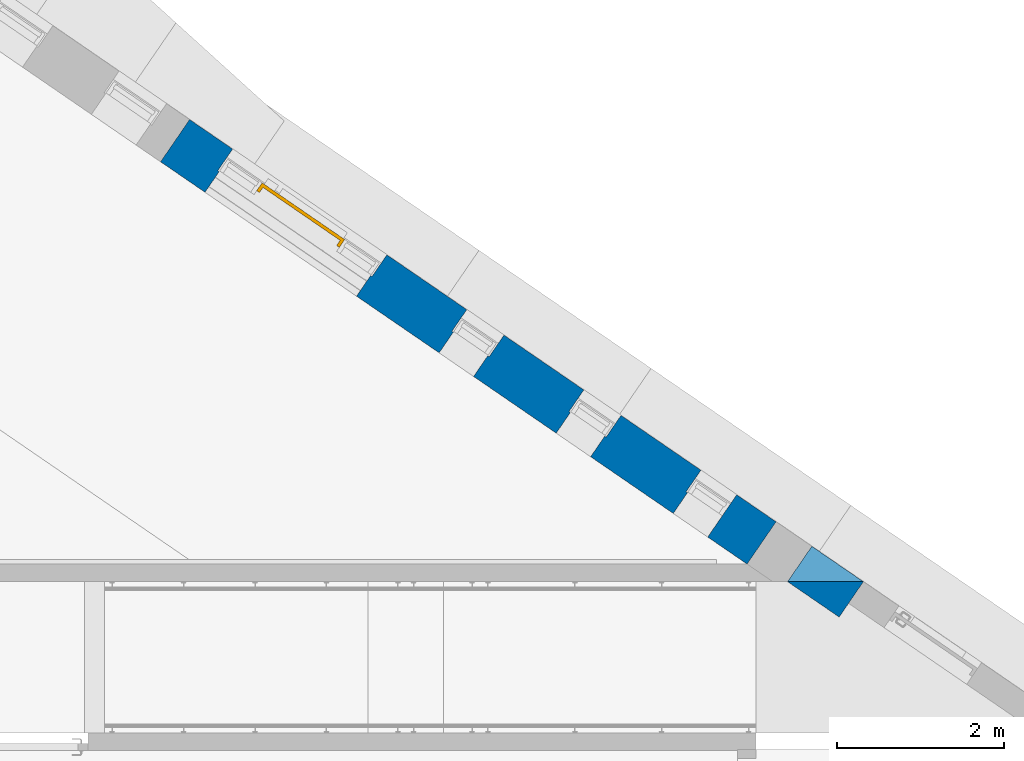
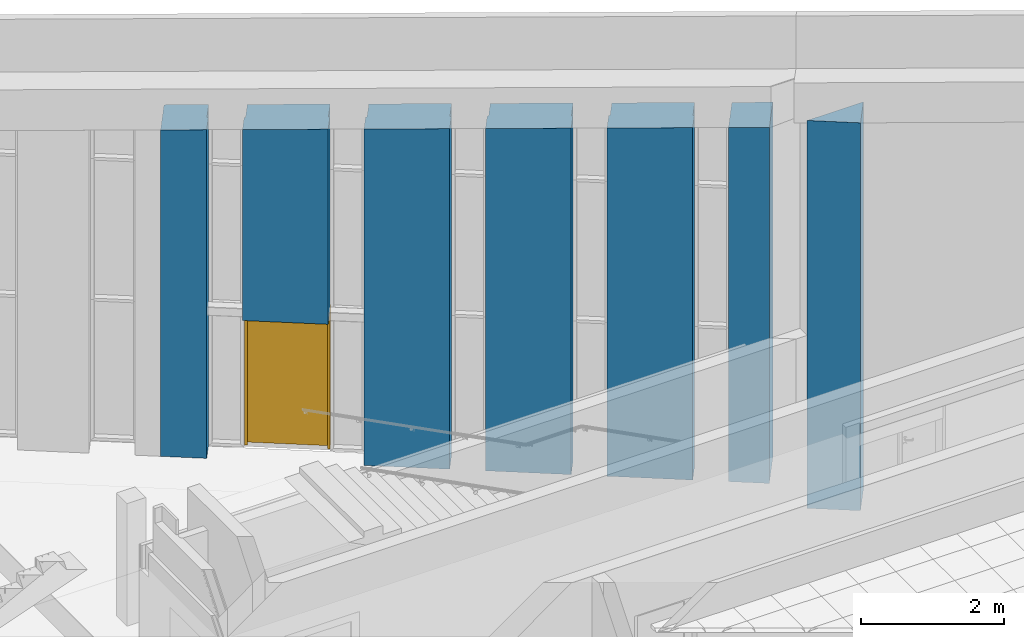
# One storey, part 44 of 79: 3 walls, 1 door, 6 openings.
"""IFC2X3 building model written with IfcOpenShell, lengths in millimetres."""

from ifc_helpers import new_model, entity, si_unit, converted_unit, derived_unit, money_unit, direction, frame, origin_with_axes, place, context, subcontext, project, spatial, faceted_brep, material, material_list, type_object, element, fill, save


model = new_model("IFC2X3")

# Units and contexts
model_context = context("Model", 3, precision=0.01, world=origin_with_axes(), true_north=direction((0.0, 1.0)))
body_context = subcontext(model_context, "Body", "Model", "MODEL_VIEW")
ifc_project = project(units=[si_unit("LENGTHUNIT", "METRE", prefix="MILLI"), si_unit("AREAUNIT", "SQUARE_METRE"), si_unit("VOLUMEUNIT", "CUBIC_METRE"), converted_unit("PLANEANGLEUNIT", "DEGREE", entity("IfcPlaneAngleMeasure", 0.0174532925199), si_unit("PLANEANGLEUNIT", "RADIAN"), dimensions=[0, 0, 0, 0, 0, 0, 0]), si_unit("SOLIDANGLEUNIT", "STERADIAN"), money_unit("EUR"), converted_unit("TIMEUNIT", "Year", entity("IfcTimeMeasure", 31556926.0), si_unit("TIMEUNIT", "SECOND"), dimensions=[0, 0, 1, 0, 0, 0, 0]), si_unit("MASSUNIT", "GRAM", prefix="KILO"), si_unit("THERMODYNAMICTEMPERATUREUNIT", "DEGREE_CELSIUS"), si_unit("LUMINOUSINTENSITYUNIT", "LUMEN"), si_unit("ENERGYUNIT", "JOULE", prefix="MEGA"), derived_unit("THERMALCONDUCTANCEUNIT", [(si_unit("POWERUNIT", "WATT"), 1), (si_unit("LENGTHUNIT", "METRE"), -1), (si_unit("THERMODYNAMICTEMPERATUREUNIT", "KELVIN"), -1)]), derived_unit("SPECIFICHEATCAPACITYUNIT", [(si_unit("ENERGYUNIT", "JOULE"), 1), (si_unit("MASSUNIT", "GRAM", prefix="KILO"), -1), (si_unit("THERMODYNAMICTEMPERATUREUNIT", "KELVIN"), -1)]), derived_unit("MASSDENSITYUNIT", [(si_unit("MASSUNIT", "GRAM", prefix="KILO"), 1), (si_unit("VOLUMEUNIT", "CUBIC_METRE"), -1)])], contexts=[model_context])

# Site, building, storey
site_placement = place(None, origin_with_axes())
site = spatial("IfcSite", under=ifc_project, at=site_placement, Name="L.Koidula tn 11b", CompositionType="ELEMENT")
building_placement = place(site_placement, origin_with_axes())
building = spatial("IfcBuilding", under=site, at=building_placement, Name="Rakvere Riigigümnaasium", CompositionType="ELEMENT")
storey_placement = place(building_placement, frame((0.0, 0.0, 3720.0), z_axis=(0.0, 0.0, 1.0), x_axis=(1.0, 0.0, 0.0)))
storey = spatial("IfcBuildingStorey", under=building, at=storey_placement, Name="2.korrus +3,72", CompositionType="ELEMENT", Elevation=3720.0)

# Wall, openings, door
ifc_material_1 = material(Name="Betoon-element")
ifc_material_2 = material(Name="FF-PIR soojustus")
ifc_material_3 = material(Name="Tuuletõke (RKL Facade)")
ifc_material_4 = material(Name="Salto-roovitus")
ifc_material_5 = material(Name="Puit-fassaad")
ifc_material_list = material_list([ifc_material_1, ifc_material_2, ifc_material_3, ifc_material_4, ifc_material_4, ifc_material_5])
wall_type_1 = type_object("IfcWallType", Name="VS-02 614", PredefinedType="NOTDEFINED")
wall_1_placement = place(storey_placement, frame((85010.8326237, 17645.0693133, 465.0), z_axis=(0.0, 0.0, 1.0), x_axis=(-0.824666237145, 0.565619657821, 0.0)))
wall_1 = element("IfcWall", 1, at=wall_1_placement, inside=storey, type_object=wall_type_1, material=ifc_material_list, Name="Välissein", context=body_context, shape_type="Brep", body=[
    faceted_brep([(7299.99519812, 0.0, 0.0), (7299.99519812, 0.0, 5596.49074025), (7945.36228653, 0.0, 5558.1323778), (7945.36228653, 0.0, 0.0), (7299.99519812, -300.0, 0.0), (7299.99519812, -300.0, 5596.49074037), (7945.36228653, -300.0, 5558.13237792), (7945.36228653, -300.0, 0.0)], [[[0, 1, 2, 3]], [[1, 0, 4, 5]], [[2, 1, 5, 6]], [[7, 3, 2, 6]], [[0, 3, 7, 4]], [[7, 6, 5, 4]]]),
    faceted_brep([(6799.99519812, -85.0000456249, 2380.01371318), (6799.99519812, -81.4645117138, 2381.47817928), (5599.99520748, -81.3990961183, 2381.47817928), (5599.99520536, -84.9346300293, 2380.01371318), (6799.99519812, 0.0, 2375.0), (6799.99519811, 0.0, 5626.20899141), (6799.99519811, -300.0, 5626.20899153), (6799.99519812, -300.0, 2375.0), (6799.99519812, -213.000000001, 2375.0), (6799.99519812, -213.033106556, 2375.01371318), (6799.99519812, -86.9668934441, 2375.01371318), (6799.99519812, -86.9999999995, 2375.0), (6799.99519812, -80.0000456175, 2385.01371318), (6799.99519812, -215.000045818, 2380.01371318), (6799.99519812, -218.535579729, 2381.47817928), (6799.99519812, -220.000045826, 2385.01371318), (6799.99519812, -220.000045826, 2515.01371318), (6799.99519812, -218.535579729, 2518.54924709), (6799.99519812, -215.000045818, 2520.01371318), (6799.99519812, -85.0000456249, 2520.01371318), (6799.99519812, -81.4645117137, 2518.54924709), (6799.99519812, -80.0000456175, 2515.01371318), (5599.99521259, -79.9346300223, 2385.01371318), (5599.99999896, 0.0, 5697.53250886), (5599.99519812, 0.0, 2375.0), (5599.99519812, -86.9999999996, 2375.0), (5599.99519814, -86.9668934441, 2375.01371318), (5599.99519814, -213.033106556, 2375.01371318), (5599.99519812, -213.0, 2375.0), (5599.99519812, -300.0, 2375.0), (5599.99999896, -300.0, 5697.53250898), (5599.99521523, -224.934630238, 2386.84218343), (5599.99539775, -224.934630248, 2513.15781654), (5599.99539752, -225.0, 2513.0), (5599.99521546, -225.0, 2387.0), (5599.99540043, -79.9346300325, 2515.01371318), (5599.99540554, -81.3990961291, 2518.54924709), (5599.99540766, -84.9346300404, 2520.01371318), (5599.99540766, -214.934630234, 2520.01371318), (5599.99540554, -218.470164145, 2518.54924709), (5599.99540043, -219.934630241, 2515.01371318), (5599.99521259, -219.93463023, 2385.01371318), (5599.99520748, -218.470164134, 2381.47817928), (5599.99520536, -214.934630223, 2380.01371318), (6799.15442683, -225.0, 2387.0), (6799.15442684, -225.0, 2513.0)], [[[0, 1, 2, 3]], [[4, 5, 6, 7, 8, 9, 10, 11], [12, 1, 0, 13, 14, 15, 16, 17, 18, 19, 20, 21]], [[1, 12, 22, 2]], [[23, 24, 25, 26, 27, 28, 29, 30], [31, 32, 33, 34], [2, 22, 35, 36, 37, 38, 39, 40, 41, 42, 43, 3]], [[13, 0, 3, 43]], [[5, 4, 24, 23]], [[6, 5, 23, 30]], [[7, 6, 30, 29]], [[8, 7, 29, 28]], [[9, 8, 28, 27]], [[10, 9, 27, 26]], [[11, 10, 26, 25]], [[4, 11, 25, 24]], [[14, 13, 43, 42]], [[15, 14, 42, 41]], [[15, 41, 40, 16]], [[17, 16, 40, 39]], [[18, 17, 39, 38]], [[19, 18, 38, 37]], [[20, 19, 37, 36]], [[21, 20, 36, 35]], [[12, 21, 35, 22]], [[44, 45, 32, 31]], [[33, 32, 45]], [[45, 44, 34, 33]], [[31, 34, 44]]]),
    faceted_brep([(6799.99519812, -82.7573593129, 2382.75735931), (6799.99519812, -87.0, 2381.0), (5599.99520679, -87.0, 2381.0), (5599.99520933, -82.7573593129, 2382.75735931), (6799.99519812, -81.0, 2387.0), (6799.99519812, -81.0, 2513.0), (6799.99519812, -82.7573593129, 2517.24264069), (6799.99519812, -87.0, 2519.0), (6799.99519812, -213.0, 2519.0), (6799.99519812, -217.242640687, 2517.24264069), (6799.99519812, -219.0, 2513.0), (6799.99519812, -219.0, 2387.0), (6799.99519812, -217.242640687, 2382.75735931), (6799.99519812, -213.0, 2381.0), (5599.99520679, -213.0, 2381.0), (5599.99539752, -81.0, 2513.0), (5599.99521546, -81.0, 2387.0), (5599.99520933, -217.242640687, 2382.75735931), (5599.99521546, -219.0, 2387.0), (5599.99539752, -219.0, 2513.0), (5599.99540365, -217.242640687, 2517.24264069), (5599.99540619, -213.0, 2519.0), (5599.99540619, -87.0, 2519.0), (5599.99540365, -82.7573593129, 2517.24264069)], [[[0, 1, 2, 3]], [[4, 5, 6, 7, 8, 9, 10, 11, 12, 13, 1, 0]], [[1, 13, 14, 2]], [[15, 16, 3, 2, 14, 17, 18, 19, 20, 21, 22, 23]], [[4, 0, 3, 16]], [[5, 4, 16, 15]], [[6, 5, 15, 23]], [[7, 6, 23, 22]], [[8, 7, 22, 21]], [[9, 8, 21, 20]], [[10, 9, 20, 19]], [[11, 10, 19, 18]], [[12, 11, 18, 17]], [[13, 12, 17, 14]]]),
    faceted_brep([(5099.99999999, 0.0, 5727.25075996), (5100.0, 0.0, 0.0), (3900.0, 0.0, 0.0), (3900.0, 0.0, 5798.57456275), (5099.99999999, -300.0, 5727.25076008), (5100.0, -300.0, 0.0), (3900.0, -300.0, 0.0), (3900.0, -300.0, 5798.57456287)], [[[0, 1, 2, 3]], [[1, 0, 4, 5]], [[2, 1, 5, 6]], [[6, 7, 3, 2]], [[0, 3, 7, 4]], [[7, 6, 5, 4]]]),
    faceted_brep([(3399.99999999, -300.0, 5828.29281403), (2200.0, -300.0, 5899.61661682), (2200.0, -300.0, 0.0), (3400.0, -300.0, 0.0), (2200.0, 0.0, 5899.6166167), (3399.99999999, 0.0, 5828.29281391), (2200.0, 0.0, 0.0), (3400.0, 0.0, 0.0)], [[[0, 1, 2, 3]], [[4, 1, 0, 5]], [[1, 4, 6, 2]], [[2, 6, 7, 3]], [[5, 0, 3, 7]], [[4, 5, 7, 6]]]),
    faceted_brep([(1699.99999999, -300.0, 5929.33486799), (500.0, -300.0, 6000.65867078), (500.0, -300.0, 0.0), (1700.0, -300.0, 0.0), (500.0, 0.0, 6000.65867066), (1699.99999999, 0.0, 5929.33486787), (500.0, 0.0, 0.0), (1700.0, 0.0, 0.0)], [[[0, 1, 2, 3]], [[4, 1, 0, 5]], [[1, 4, 6, 2]], [[3, 2, 6, 7]], [[5, 0, 3, 7]], [[4, 5, 7, 6]]]),
    faceted_brep([(6779.99519812, -480.0, 2375.0), (6779.99519812, -480.0, 5627.39772165), (5620.0, -480.0, 5696.34377894), (5620.0, -480.0, 2375.0), (6779.99519812, -300.0, 2375.0), (6779.99519812, -300.0, 5627.39772158), (5620.0, -300.0, 5696.34377887), (5620.0, -300.0, 2375.0)], [[[0, 1, 2, 3]], [[4, 5, 1, 0]], [[5, 6, 2, 1]], [[3, 2, 6, 7]], [[3, 7, 4, 0]], [[7, 6, 5, 4]]]),
    faceted_brep([(7945.36228653, -480.0, 5558.13237799), (7319.99519812, -480.0, 5595.30201039), (7319.99519812, -480.0, 0.0), (7945.36228653, -480.0, 0.0), (7319.99519812, -300.0, 5595.30201032), (7945.36228653, -300.0, 5558.13237792), (7319.99519812, -300.0, 0.0), (7945.36228653, -300.0, 0.0)], [[[0, 1, 2, 3]], [[4, 1, 0, 5]], [[1, 4, 6, 2]], [[3, 2, 6, 7]], [[5, 0, 3, 7]], [[4, 5, 7, 6]]]),
    faceted_brep([(5080.0, -480.0, 5728.4394902), (3920.0, -480.0, 5797.38583289), (3920.0, -480.0, 0.0), (5080.0, -480.0, 0.0), (3920.0, -300.0, 5797.38583282), (5080.0, -300.0, 5728.43949012), (3920.0, -300.0, 0.0), (5080.0, -300.0, 0.0)], [[[0, 1, 2, 3]], [[4, 1, 0, 5]], [[1, 4, 6, 2]], [[6, 7, 3, 2]], [[5, 0, 3, 7]], [[4, 5, 7, 6]]]),
    faceted_brep([(3380.0, -480.0, 5829.48154415), (2220.0, -480.0, 5898.42788685), (2220.0, -480.0, 0.0), (3380.0, -480.0, 0.0), (2220.0, -300.0, 5898.42788678), (3380.0, -300.0, 5829.48154408), (2220.0, -300.0, 0.0), (3380.0, -300.0, 0.0)], [[[0, 1, 2, 3]], [[4, 1, 0, 5]], [[1, 4, 6, 2]], [[2, 6, 7, 3]], [[5, 0, 3, 7]], [[4, 5, 7, 6]]]),
    faceted_brep([(1680.0, -480.0, 5930.52359811), (520.0, -480.0, 5999.4699408), (520.0, -480.0, 0.0), (1680.0, -480.0, 0.0), (520.0, -300.0, 5999.46994073), (1680.0, -300.0, 5930.52359803), (520.0, -300.0, 0.0), (1680.0, -300.0, 0.0)], [[[0, 1, 2, 3]], [[4, 1, 0, 5]], [[1, 4, 6, 2]], [[3, 2, 6, 7]], [[5, 0, 3, 7]], [[4, 5, 7, 6]]]),
    faceted_brep([(6779.99519812, -530.0, 2375.0), (6779.99519812, -530.0, 5627.39772167), (5620.0, -530.0, 5696.34377896), (5620.0, -530.0, 2375.0), (6779.99519812, -480.0, 2375.0), (6779.99519812, -480.0, 5627.39772165), (5620.0, -480.0, 5696.34377894), (5620.0, -480.0, 2375.0)], [[[0, 1, 2, 3]], [[4, 5, 1, 0]], [[5, 6, 2, 1]], [[3, 2, 6, 7]], [[3, 7, 4, 0]], [[7, 6, 5, 4]]]),
    faceted_brep([(7945.36228653, -530.0, 5558.13237801), (7319.99519812, -530.0, 5595.30201041), (7319.99519812, -530.0, 0.0), (7945.36228653, -530.0, 0.0), (7319.99519812, -480.0, 5595.30201039), (7945.36228653, -480.0, 5558.13237799), (7319.99519812, -480.0, 0.0), (7945.36228653, -480.0, 0.0)], [[[0, 1, 2, 3]], [[4, 1, 0, 5]], [[1, 4, 6, 2]], [[3, 2, 6, 7]], [[5, 0, 3, 7]], [[4, 5, 7, 6]]]),
    faceted_brep([(5080.0, -530.0, 5728.43949022), (3920.0, -530.0, 5797.38583291), (3920.0, -530.0, 0.0), (5080.0, -530.0, 0.0), (3920.0, -480.0, 5797.38583289), (5080.0, -480.0, 5728.4394902), (3920.0, -480.0, 0.0), (5080.0, -480.0, 0.0)], [[[0, 1, 2, 3]], [[4, 1, 0, 5]], [[1, 4, 6, 2]], [[6, 7, 3, 2]], [[5, 0, 3, 7]], [[4, 5, 7, 6]]]),
    faceted_brep([(3380.0, -530.0, 5829.48154417), (2220.0, -530.0, 5898.42788687), (2220.0, -530.0, 0.0), (3380.0, -530.0, 0.0), (2220.0, -480.0, 5898.42788685), (3380.0, -480.0, 5829.48154415), (2220.0, -480.0, 0.0), (3380.0, -480.0, 0.0)], [[[0, 1, 2, 3]], [[4, 1, 0, 5]], [[1, 4, 6, 2]], [[2, 6, 7, 3]], [[5, 0, 3, 7]], [[4, 5, 7, 6]]]),
    faceted_brep([(1680.0, -530.0, 5930.52359813), (520.0, -530.0, 5999.46994082), (520.0, -530.0, 0.0), (1680.0, -530.0, 0.0), (520.0, -480.0, 5999.4699408), (1680.0, -480.0, 5930.52359811), (520.0, -480.0, 0.0), (1680.0, -480.0, 0.0)], [[[0, 1, 2, 3]], [[4, 1, 0, 5]], [[1, 4, 6, 2]], [[3, 2, 6, 7]], [[5, 0, 3, 7]], [[4, 5, 7, 6]]]),
    faceted_brep([(6779.99519812, -562.0, 2375.0), (6779.99519812, -562.0, 5627.39772168), (5620.0, -562.0, 5696.34377897), (5620.0, -562.0, 2375.0), (6779.99519812, -530.0, 2375.0), (6779.99519812, -530.0, 5627.39772167), (5620.0, -530.0, 5696.34377896), (5620.0, -530.0, 2375.0)], [[[0, 1, 2, 3]], [[4, 5, 1, 0]], [[5, 6, 2, 1]], [[3, 2, 6, 7]], [[3, 7, 4, 0]], [[7, 6, 5, 4]]]),
    faceted_brep([(7945.36228653, -562.0, 5558.13237802), (7319.99519812, -562.0, 5595.30201043), (7319.99519812, -562.0, 0.0), (7945.36228653, -562.0, 0.0), (7319.99519812, -530.0, 5595.30201041), (7945.36228653, -530.0, 5558.13237801), (7319.99519812, -530.0, 0.0), (7945.36228653, -530.0, 0.0)], [[[0, 1, 2, 3]], [[4, 1, 0, 5]], [[1, 4, 6, 2]], [[3, 2, 6, 7]], [[5, 0, 3, 7]], [[4, 5, 7, 6]]]),
    faceted_brep([(5080.0, -562.0, 5728.43949023), (3920.0, -562.0, 5797.38583293), (3920.0, -562.0, 0.0), (5080.0, -562.0, 0.0), (3920.0, -530.0, 5797.38583291), (5080.0, -530.0, 5728.43949022), (3920.0, -530.0, 0.0), (5080.0, -530.0, 0.0)], [[[0, 1, 2, 3]], [[4, 1, 0, 5]], [[1, 4, 6, 2]], [[6, 7, 3, 2]], [[5, 0, 3, 7]], [[4, 5, 7, 6]]]),
    faceted_brep([(3380.0, -562.0, 5829.48154418), (2220.0, -562.0, 5898.42788688), (2220.0, -562.0, 0.0), (3380.0, -562.0, 0.0), (2220.0, -530.0, 5898.42788687), (3380.0, -530.0, 5829.48154417), (2220.0, -530.0, 0.0), (3380.0, -530.0, 0.0)], [[[0, 1, 2, 3]], [[4, 1, 0, 5]], [[1, 4, 6, 2]], [[2, 6, 7, 3]], [[5, 0, 3, 7]], [[4, 5, 7, 6]]]),
    faceted_brep([(1680.0, -562.0, 5930.52359814), (520.0, -562.0, 5999.46994084), (520.0, -562.0, 0.0), (1680.0, -562.0, 0.0), (520.0, -530.0, 5999.46994082), (1680.0, -530.0, 5930.52359813), (520.0, -530.0, 0.0), (1680.0, -530.0, 0.0)], [[[0, 1, 2, 3]], [[4, 1, 0, 5]], [[1, 4, 6, 2]], [[3, 2, 6, 7]], [[5, 0, 3, 7]], [[4, 5, 7, 6]]]),
    faceted_brep([(6779.99519812, -594.0, 2375.0), (6779.99519812, -594.0, 5627.39772169), (5620.0, -594.0, 5696.34377899), (5620.0, -594.0, 2375.0), (6779.99519812, -562.0, 2375.0), (6779.99519812, -562.0, 5627.39772168), (5620.0, -562.0, 5696.34377897), (5620.0, -562.0, 2375.0)], [[[0, 1, 2, 3]], [[4, 5, 1, 0]], [[5, 6, 2, 1]], [[3, 2, 6, 7]], [[3, 7, 4, 0]], [[7, 6, 5, 4]]]),
    faceted_brep([(7945.36228653, -594.0, 5558.13237803), (7319.99519812, -594.0, 5595.30201044), (7319.99519812, -594.0, 0.0), (7945.36228653, -594.0, 0.0), (7319.99519812, -562.0, 5595.30201043), (7945.36228653, -562.0, 5558.13237802), (7319.99519812, -562.0, 0.0), (7945.36228653, -562.0, 0.0)], [[[0, 1, 2, 3]], [[4, 1, 0, 5]], [[1, 4, 6, 2]], [[3, 2, 6, 7]], [[5, 0, 3, 7]], [[4, 5, 7, 6]]]),
    faceted_brep([(5080.0, -594.0, 5728.43949024), (3920.0, -594.0, 5797.38583294), (3920.0, -594.0, 0.0), (5080.0, -594.0, 0.0), (3920.0, -562.0, 5797.38583293), (5080.0, -562.0, 5728.43949023), (3920.0, -562.0, 0.0), (5080.0, -562.0, 0.0)], [[[0, 1, 2, 3]], [[4, 1, 0, 5]], [[1, 4, 6, 2]], [[6, 7, 3, 2]], [[5, 0, 3, 7]], [[4, 5, 7, 6]]]),
    faceted_brep([(3380.0, -594.0, 5829.4815442), (2220.0, -594.0, 5898.42788689), (2220.0, -594.0, 0.0), (3380.0, -594.0, 0.0), (2220.0, -562.0, 5898.42788688), (3380.0, -562.0, 5829.48154418), (2220.0, -562.0, 0.0), (3380.0, -562.0, 0.0)], [[[0, 1, 2, 3]], [[4, 1, 0, 5]], [[1, 4, 6, 2]], [[2, 6, 7, 3]], [[5, 0, 3, 7]], [[4, 5, 7, 6]]]),
    faceted_brep([(1680.0, -594.0, 5930.52359815), (520.0, -594.0, 5999.46994085), (520.0, -594.0, 0.0), (1680.0, -594.0, 0.0), (520.0, -562.0, 5999.46994084), (1680.0, -562.0, 5930.52359814), (520.0, -562.0, 0.0), (1680.0, -562.0, 0.0)], [[[0, 1, 2, 3]], [[4, 1, 0, 5]], [[1, 4, 6, 2]], [[3, 2, 6, 7]], [[5, 0, 3, 7]], [[4, 5, 7, 6]]]),
    faceted_brep([(6779.99519812, -614.0, 2375.0), (6779.99519812, -614.0, 5627.3977217), (5620.0, -614.0, 5696.34377899), (5620.0, -614.0, 2375.0), (6779.99519812, -594.0, 2375.0), (6779.99519812, -594.0, 5627.39772169), (5620.0, -594.0, 5696.34377899), (5620.0, -594.0, 2375.0)], [[[0, 1, 2, 3]], [[4, 5, 1, 0]], [[5, 6, 2, 1]], [[3, 2, 6, 7]], [[3, 7, 4, 0]], [[7, 6, 5, 4]]]),
    faceted_brep([(7945.36228653, -614.0, 5558.13237804), (7319.99519812, -614.0, 5595.30201045), (7319.99519812, -614.0, 0.0), (7945.36228653, -614.0, 0.0), (7319.99519812, -594.0, 5595.30201044), (7945.36228653, -594.0, 5558.13237803), (7319.99519812, -594.0, 0.0), (7945.36228653, -594.0, 0.0)], [[[0, 1, 2, 3]], [[4, 1, 0, 5]], [[1, 4, 6, 2]], [[3, 2, 6, 7]], [[5, 0, 3, 7]], [[4, 5, 7, 6]]]),
    faceted_brep([(5080.0, -614.0, 5728.43949025), (3920.0, -614.0, 5797.38583295), (3920.0, -614.0, 0.0), (5080.0, -614.0, 0.0), (3920.0, -594.0, 5797.38583294), (5080.0, -594.0, 5728.43949024), (3920.0, -594.0, 0.0), (5080.0, -594.0, 0.0)], [[[0, 1, 2, 3]], [[4, 1, 0, 5]], [[1, 4, 6, 2]], [[6, 7, 3, 2]], [[5, 0, 3, 7]], [[4, 5, 7, 6]]]),
    faceted_brep([(3380.0, -614.0, 5829.4815442), (2220.0, -614.0, 5898.4278869), (2220.0, -614.0, 0.0), (3380.0, -614.0, 0.0), (2220.0, -594.0, 5898.42788689), (3380.0, -594.0, 5829.4815442), (2220.0, -594.0, 0.0), (3380.0, -594.0, 0.0)], [[[0, 1, 2, 3]], [[4, 1, 0, 5]], [[1, 4, 6, 2]], [[2, 6, 7, 3]], [[5, 0, 3, 7]], [[4, 5, 7, 6]]]),
    faceted_brep([(1680.0, -614.0, 5930.52359816), (520.0, -614.0, 5999.46994086), (520.0, -614.0, 0.0), (1680.0, -614.0, 0.0), (520.0, -594.0, 5999.46994085), (1680.0, -594.0, 5930.52359815), (520.0, -594.0, 0.0), (1680.0, -594.0, 0.0)], [[[0, 1, 2, 3]], [[4, 1, 0, 5]], [[1, 4, 6, 2]], [[3, 2, 6, 7]], [[5, 0, 3, 7]], [[4, 5, 7, 6]]]),
])
opening_1_placement = place(wall_1_placement, frame((6199.99519812, 0.0, 0.0), z_axis=(0.0, 0.0, 1.0), x_axis=(1.0, 0.0, 0.0)))
opening_1 = element("IfcOpeningElement", 2, at=opening_1_placement, cuts=wall_1, Name="VU-03", context=body_context, shape_type="Brep", body=[
    faceted_brep([(-600.0, 614.0, 2375.0), (-600.0, 614.0, 0.0), (-600.0, -480.0, 0.0), (-600.0, -480.0, 2375.0), (600.0, 614.0, 2375.0), (600.0, 614.0, 0.0), (600.0, -480.0, 0.0), (600.0, -480.0, 2375.0)], [[[0, 1, 2, 3]], [[0, 4, 5, 1]], [[1, 5, 6, 2]], [[3, 2, 6, 7]], [[4, 0, 3, 7]], [[5, 4, 7, 6]]]),
    faceted_brep([(-600.0, -1228.0, 0.0), (-600.0, -1228.0, 2375.0), (-600.0, -480.0, 2375.0), (-600.0, -480.0, 0.0), (600.0, -1228.0, 0.0), (600.0, -1228.0, 2375.0), (600.0, -480.0, 2375.0), (600.0, -480.0, 0.0)], [[[0, 1, 2, 3]], [[0, 4, 5, 1]], [[1, 5, 6, 2]], [[3, 2, 6, 7]], [[4, 0, 3, 7]], [[5, 4, 7, 6]]]),
])
opening_2_placement = place(wall_1_placement, frame((7049.99519812, 0.0, 0.0), z_axis=(0.0, 0.0, 1.0), x_axis=(1.0, 0.0, 0.0)))
element("IfcOpeningElement", 3, at=opening_2_placement, cuts=wall_1, Name="Ava", context=body_context, shape_type="Brep", body=[
    faceted_brep([(270.0, -300.0, 0.0), (270.0, -300.0, 5616.08260341), (270.0, -1228.0, 5616.08260341), (270.0, -1228.0, 0.0), (-270.0, -300.0, 0.0), (-270.0, -300.0, 5647.40260341), (-270.0, -1228.0, 5647.40260341), (-270.0, -1228.0, 0.0)], [[[0, 1, 2, 3]], [[0, 4, 5, 1]], [[1, 5, 6, 2]], [[3, 2, 6, 7]], [[4, 0, 3, 7]], [[5, 4, 7, 6]]]),
    faceted_brep([(-250.0, -300.0, 0.0), (-250.0, -300.0, 5626.20899166), (-250.0, 614.0, 5626.20899166), (-250.0, 614.0, 0.0), (250.0, -300.0, 0.0), (250.0, -300.0, 5597.20899166), (250.0, 614.0, 5597.20899166), (250.0, 614.0, 0.0)], [[[0, 1, 2, 3]], [[0, 4, 5, 1]], [[1, 5, 6, 2]], [[3, 2, 6, 7]], [[4, 0, 3, 7]], [[5, 4, 7, 6]]]),
])
opening_3_placement = place(wall_1_placement, frame((5350.0, 0.0, 0.0), z_axis=(0.0, 0.0, 1.0), x_axis=(1.0, 0.0, 0.0)))
element("IfcOpeningElement", 4, at=opening_3_placement, cuts=wall_1, Name="Ava", context=body_context, shape_type="Brep", body=[
    faceted_brep([(270.0, -300.0, 0.0), (270.0, -300.0, 5717.12437196), (270.0, -1228.0, 5717.12437196), (270.0, -1228.0, 0.0), (-270.0, -300.0, 0.0), (-270.0, -300.0, 5748.44437196), (-270.0, -1228.0, 5748.44437196), (-270.0, -1228.0, 0.0)], [[[0, 1, 2, 3]], [[0, 4, 5, 1]], [[1, 5, 6, 2]], [[3, 2, 6, 7]], [[4, 0, 3, 7]], [[5, 4, 7, 6]]]),
    faceted_brep([(-250.0, -300.0, 0.0), (-250.0, -300.0, 5727.2507602), (-250.0, 614.0, 5727.2507602), (-250.0, 614.0, 0.0), (250.0, -300.0, 0.0), (250.0, -300.0, 5698.2507602), (250.0, 614.0, 5698.2507602), (250.0, 614.0, 0.0)], [[[0, 1, 2, 3]], [[0, 4, 5, 1]], [[1, 5, 6, 2]], [[3, 2, 6, 7]], [[4, 0, 3, 7]], [[5, 4, 7, 6]]]),
])
opening_4_placement = place(wall_1_placement, frame((3650.0, 0.0, 0.0), z_axis=(0.0, 0.0, 1.0), x_axis=(1.0, 0.0, 0.0)))
element("IfcOpeningElement", 5, at=opening_4_placement, cuts=wall_1, Name="Ava", context=body_context, shape_type="Brep", body=[
    faceted_brep([(270.0, -300.0, 0.0), (270.0, -300.0, 5818.16642591), (270.0, -1228.0, 5818.16642591), (270.0, -1228.0, 0.0), (-270.0, -300.0, 0.0), (-270.0, -300.0, 5849.48642591), (-270.0, -1228.0, 5849.48642591), (-270.0, -1228.0, 0.0)], [[[0, 1, 2, 3]], [[0, 4, 5, 1]], [[1, 5, 6, 2]], [[3, 2, 6, 7]], [[4, 0, 3, 7]], [[5, 4, 7, 6]]]),
    faceted_brep([(-250.0, -300.0, 0.0), (-250.0, -300.0, 5828.29281416), (-250.0, 614.0, 5828.29281416), (-250.0, 614.0, 0.0), (250.0, -300.0, 0.0), (250.0, -300.0, 5799.29281416), (250.0, 614.0, 5799.29281416), (250.0, 614.0, 0.0)], [[[0, 1, 2, 3]], [[0, 4, 5, 1]], [[1, 5, 6, 2]], [[3, 2, 6, 7]], [[4, 0, 3, 7]], [[5, 4, 7, 6]]]),
])
opening_5_placement = place(wall_1_placement, frame((1950.0, 0.0, 0.0), z_axis=(0.0, 0.0, 1.0), x_axis=(1.0, 0.0, 0.0)))
element("IfcOpeningElement", 6, at=opening_5_placement, cuts=wall_1, Name="Ava", context=body_context, shape_type="Brep", body=[
    faceted_brep([(270.0, -300.0, 0.0), (270.0, -300.0, 5919.20847987), (270.0, -1228.0, 5919.20847987), (270.0, -1228.0, 0.0), (-270.0, -300.0, 0.0), (-270.0, -300.0, 5950.52847987), (-270.0, -1228.0, 5950.52847987), (-270.0, -1228.0, 0.0)], [[[0, 1, 2, 3]], [[0, 4, 5, 1]], [[1, 5, 6, 2]], [[3, 2, 6, 7]], [[4, 0, 3, 7]], [[5, 4, 7, 6]]]),
    faceted_brep([(-250.0, -300.0, 0.0), (-250.0, -300.0, 5929.33486811), (-250.0, 614.0, 5929.33486811), (-250.0, 614.0, 0.0), (250.0, -300.0, 0.0), (250.0, -300.0, 5900.33486811), (250.0, 614.0, 5900.33486811), (250.0, 614.0, 0.0)], [[[0, 1, 2, 3]], [[0, 4, 5, 1]], [[1, 5, 6, 2]], [[3, 2, 6, 7]], [[4, 0, 3, 7]], [[5, 4, 7, 6]]]),
])
opening_6_placement = place(wall_1_placement, frame((250.0, 0.0, 0.0), z_axis=(0.0, 0.0, 1.0), x_axis=(1.0, 0.0, 0.0)))
element("IfcOpeningElement", 7, at=opening_6_placement, cuts=wall_1, Name="Ava", context=body_context, shape_type="Brep", body=[
    faceted_brep([(270.0, -300.0, 0.0), (270.0, -300.0, 6020.25053382), (270.0, -1228.0, 6020.25053382), (270.0, -1228.0, 0.0), (-270.0, -300.0, 0.0), (-270.0, -300.0, 6051.57053382), (-270.0, -1228.0, 6051.57053382), (-270.0, -1228.0, 0.0)], [[[0, 1, 2, 3]], [[0, 4, 5, 1]], [[1, 5, 6, 2]], [[3, 2, 6, 7]], [[4, 0, 3, 7]], [[5, 4, 7, 6]]]),
    faceted_brep([(-250.0, -300.0, 0.0), (-250.0, -300.0, 6030.37692207), (-250.0, 614.0, 6030.37692207), (-250.0, 614.0, 0.0), (250.0, -300.0, 0.0), (250.0, -300.0, 6001.37692207), (250.0, 614.0, 6001.37692207), (250.0, 614.0, 0.0)], [[[0, 1, 2, 3]], [[0, 4, 5, 1]], [[1, 5, 6, 2]], [[3, 2, 6, 7]], [[4, 0, 3, 7]], [[5, 4, 7, 6]]]),
])
door_style = type_object("IfcDoorStyle", Name="Door 23", ConstructionType="NOTDEFINED", OperationType="SINGLE_SWING_RIGHT", ParameterTakesPrecedence=False, Sizeable=False)
door_placement = place(opening_1_placement, frame((600.0, 0.0, 0.0), z_axis=(0.0, 0.0, 1.0), x_axis=(-1.0, 0.0, 0.0)))
door = element("IfcDoor", 8, at=door_placement, inside=storey, type_object=door_style, Name="VU-03", ObjectType="DOOR", OverallHeight=2375.0, OverallWidth=1200.0, context=body_context, shape_type="Brep", body=[
    faceted_brep([(1172.0, 480.0, 2347.0), (28.0, 480.0, 2347.0), (28.0, 480.0, 2335.0), (0.0, 480.0, 2335.0), (0.0, 480.0, 2375.0), (1200.0, 480.0, 2375.0), (1200.0, 480.0, 2335.0), (1172.0, 480.0, 2335.0), (28.0, 440.0, 2347.0), (1172.0, 440.0, 2347.0), (28.0, 440.0, 2335.0), (40.0, 440.0, 2335.0), (40.0, 365.0, 2335.0), (0.0, 365.0, 2335.0), (0.0, 365.0, 2375.0), (1200.0, 365.0, 2375.0), (1200.0, 365.0, 2335.0), (1160.0, 440.0, 2335.0), (1172.0, 440.0, 2335.0), (1160.0, 365.0, 2335.0)], [[[0, 1, 2, 3, 4, 5, 6, 7]], [[8, 1, 0, 9]], [[10, 2, 1, 8]], [[2, 10, 11, 12, 13, 3]], [[4, 3, 13, 14]], [[5, 4, 14, 15]], [[6, 5, 15, 16]], [[17, 18, 7, 6, 16, 19]], [[9, 0, 7, 18]], [[9, 18, 17, 11, 10, 8]], [[12, 11, 17, 19]], [[12, 19, 16, 15, 14, 13]]]),
    faceted_brep([(40.0, 440.0, 0.0), (40.0, 440.0, 2335.0), (40.0, 365.0, 2335.0), (40.0, 365.0, 0.0), (28.0, 440.0, 2335.0), (28.0, 440.0, 0.0), (28.0, 480.0, 2335.0), (0.0, 480.0, 2335.0), (0.0, 365.0, 2335.0), (0.0, 365.0, 0.0), (0.0, 480.0, 0.0), (28.0, 480.0, 0.0)], [[[0, 1, 2, 3]], [[4, 1, 0, 5]], [[4, 6, 7, 8, 2, 1]], [[3, 2, 8, 9]], [[5, 0, 3, 9, 10, 11]], [[6, 4, 5, 11]], [[6, 11, 10, 7]], [[10, 9, 8, 7]]]),
    faceted_brep([(1172.0, 440.0, 2335.0), (1160.0, 440.0, 2335.0), (1160.0, 365.0, 2335.0), (1200.0, 365.0, 2335.0), (1200.0, 480.0, 2335.0), (1172.0, 480.0, 2335.0), (1172.0, 440.0, 0.0), (1160.0, 440.0, 0.0), (1160.0, 365.0, 0.0), (1200.0, 365.0, 0.0), (1200.0, 480.0, 0.0), (1172.0, 480.0, 0.0)], [[[0, 1, 2, 3, 4, 5]], [[1, 0, 6, 7]], [[1, 7, 8, 2]], [[3, 2, 8, 9]], [[4, 3, 9, 10]], [[11, 5, 4, 10]], [[0, 5, 11, 6]], [[6, 11, 10, 9, 8, 7]]]),
    faceted_brep([(1172.0, 480.0, 0.0), (1172.0, 440.0, 0.0), (28.0, 440.0, 0.0), (28.0, 480.0, 0.0), (1172.0, 480.0, 2347.0), (1172.0, 440.0, 2347.0), (28.0, 440.0, 2347.0), (28.0, 480.0, 2347.0)], [[[0, 1, 2, 3]], [[4, 5, 1, 0]], [[1, 5, 6, 2]], [[3, 2, 6, 7]], [[0, 3, 7, 4]], [[7, 6, 5, 4]]]),
])
fill(opening_1, door)

# Walls
wall_2_placement = place(storey_placement, frame((85482.564107, 17321.5195083, 465.0), z_axis=(0.0, 0.0, 1.0), x_axis=(-0.824666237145, 0.565619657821, 0.0)))
element("IfcWall", 9, at=wall_2_placement, inside=storey, type_object=wall_type_1, material=ifc_material_list, Name="Välissein", context=body_context, shape_type="Brep", body=[
    faceted_brep([(572.027157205, -300.0, 6030.37692194), (0.0, -300.0, 6064.3762154), (0.0, -300.0, 0.0), (572.027157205, -300.0, 0.0), (0.0, 0.0, 6064.37621528), (572.027157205, 0.0, 6030.37692182), (0.0, 0.0, 0.0), (572.027157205, 0.0, 0.0)], [[[0, 1, 2, 3]], [[4, 1, 0, 5]], [[1, 4, 6, 2]], [[2, 6, 7, 3]], [[5, 0, 3, 7]], [[4, 5, 7, 6]]]),
    faceted_brep([(572.027157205, -480.0, 6030.37692201), (0.0, -480.0, 6064.37621547), (0.0, -480.0, 0.0), (572.027157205, -480.0, 0.0), (0.0, -300.0, 6064.3762154), (572.027157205, -300.0, 6030.37692194), (0.0, -300.0, 0.0), (572.027157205, -300.0, 0.0)], [[[0, 1, 2, 3]], [[4, 1, 0, 5]], [[1, 4, 6, 2]], [[2, 6, 7, 3]], [[5, 0, 3, 7]], [[4, 5, 7, 6]]]),
    faceted_brep([(572.027157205, -530.0, 6030.37692203), (0.0, -530.0, 6064.37621549), (0.0, -530.0, 0.0), (572.027157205, -530.0, 0.0), (0.0, -480.0, 6064.37621547), (572.027157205, -480.0, 6030.37692201), (0.0, -480.0, 0.0), (572.027157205, -480.0, 0.0)], [[[0, 1, 2, 3]], [[4, 1, 0, 5]], [[1, 4, 6, 2]], [[2, 6, 7, 3]], [[5, 0, 3, 7]], [[4, 5, 7, 6]]]),
    faceted_brep([(572.027157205, -562.0, 6030.37692205), (0.0, -562.0, 6064.37621551), (0.0, -562.0, 0.0), (572.027157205, -562.0, 0.0), (0.0, -530.0, 6064.37621549), (572.027157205, -530.0, 6030.37692203), (0.0, -530.0, 0.0), (572.027157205, -530.0, 0.0)], [[[0, 1, 2, 3]], [[4, 1, 0, 5]], [[1, 4, 6, 2]], [[2, 6, 7, 3]], [[5, 0, 3, 7]], [[4, 5, 7, 6]]]),
    faceted_brep([(572.027157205, -594.0, 6030.37692206), (0.0, -594.0, 6064.37621552), (0.0, -594.0, 0.0), (572.027157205, -594.0, 0.0), (0.0, -562.0, 6064.37621551), (572.027157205, -562.0, 6030.37692205), (0.0, -562.0, 0.0), (572.027157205, -562.0, 0.0)], [[[0, 1, 2, 3]], [[4, 1, 0, 5]], [[1, 4, 6, 2]], [[2, 6, 7, 3]], [[5, 0, 3, 7]], [[4, 5, 7, 6]]]),
    faceted_brep([(572.027157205, -614.0, 6030.37692207), (0.0, -614.0, 6064.37621553), (0.0, -614.0, 0.0), (572.027157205, -614.0, 0.0), (0.0, -594.0, 6064.37621552), (572.027157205, -594.0, 6030.37692206), (0.0, -594.0, 0.0), (572.027157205, -594.0, 0.0)], [[[0, 1, 2, 3]], [[4, 1, 0, 5]], [[1, 4, 6, 2]], [[2, 6, 7, 3]], [[5, 0, 3, 7]], [[4, 5, 7, 6]]]),
])
wall_type_2 = type_object("IfcWallType", Name="VS-01 514", PredefinedType="NOTDEFINED")
wall_3_placement = place(storey_placement, frame((86585.1026228, 16686.581962, 0.0), z_axis=(0.0, 0.0, 1.0), x_axis=(-0.824666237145, 0.565619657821, 0.0)))
element("IfcWall", 10, at=wall_3_placement, inside=storey, type_object=wall_type_2, material=ifc_material_list, Name="Välissein", context=body_context, shape_type="Brep", body=[
    faceted_brep([(749.396831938, -199.994099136, 465.0), (457.807989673, -199.994099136, 465.0), (457.807989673, -199.994099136, 6604.76304739), (0.0, -200.0, 6604.76304739), (0.0, -200.0, 0.0), (749.396831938, -200.0, 0.0), (749.396831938, 0.0, 465.0), (749.396831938, 0.0, 6604.76304739), (0.0, 0.0, 6604.76304739), (0.0, 0.0, 0.0), (749.396831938, 0.0, 0.0)], [[[0, 1, 2, 3, 4, 5]], [[1, 0, 6]], [[7, 2, 1, 6]], [[2, 7, 8, 3]], [[9, 4, 3, 8]], [[10, 5, 4, 9]], [[6, 0, 5, 10]], [[7, 6, 10, 9, 8]]]),
    faceted_brep([(749.396831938, -379.994099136, 465.0), (195.37028859, -379.994099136, 465.0), (195.37028859, -379.994099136, 6604.76304739), (0.0, -380.0, 6604.76304739), (0.0, -380.0, 0.0), (749.396831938, -380.0, 0.0), (749.396831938, -199.994099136, 465.0), (457.807989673, -199.994099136, 465.0), (457.807989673, -199.994099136, 6604.76304739), (0.0, -200.0, 6604.76304739), (0.0, -200.0, 0.0), (749.396831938, -200.0, 0.0)], [[[0, 1, 2, 3, 4, 5]], [[1, 0, 6, 7]], [[8, 2, 1, 7]], [[2, 8, 9, 3]], [[4, 3, 9, 10]], [[5, 4, 10, 11]], [[6, 0, 5, 11]], [[7, 6, 11, 10, 9, 8]]]),
    faceted_brep([(749.396831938, -429.994099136, 465.0), (122.470927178, -429.994099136, 465.0), (122.470927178, -429.994099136, 6604.76304739), (0.0, -430.0, 6604.76304739), (0.0, -430.0, 0.0), (749.396831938, -430.0, 0.0), (749.396831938, -379.994099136, 465.0), (195.37028859, -379.994099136, 465.0), (195.37028859, -379.994099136, 6604.76304739), (0.0, -380.0, 6604.76304739), (0.0, -380.0, 0.0), (749.396831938, -380.0, 0.0)], [[[0, 1, 2, 3, 4, 5]], [[1, 0, 6, 7]], [[8, 2, 1, 7]], [[2, 8, 9, 3]], [[4, 3, 9, 10]], [[5, 4, 10, 11]], [[6, 0, 5, 11]], [[7, 6, 11, 10, 9, 8]]]),
    faceted_brep([(749.396831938, -461.994099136, 465.0), (75.815335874, -461.994099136, 465.0), (75.815335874, -461.994099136, 6604.76304739), (0.0, -462.0, 6604.76304739), (0.0, -462.0, 0.0), (749.396831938, -462.0, 0.0), (749.396831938, -429.994099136, 465.0), (122.470927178, -429.994099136, 465.0), (122.470927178, -429.994099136, 6604.76304739), (0.0, -430.0, 6604.76304739), (0.0, -430.0, 0.0), (749.396831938, -430.0, 0.0)], [[[0, 1, 2, 3, 4, 5]], [[1, 0, 6, 7]], [[8, 2, 1, 7]], [[2, 8, 9, 3]], [[4, 3, 9, 10]], [[5, 4, 10, 11]], [[6, 0, 5, 11]], [[7, 6, 11, 10, 9, 8]]]),
    faceted_brep([(749.396831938, -493.994099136, 465.0), (29.1597445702, -493.994099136, 465.0), (29.1597445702, -493.994099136, 6604.76304739), (0.0, -494.0, 6604.76304739), (0.0, -494.0, 0.0), (749.396831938, -494.0, 0.0), (749.396831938, -461.994099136, 465.0), (75.815335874, -461.994099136, 465.0), (75.815335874, -461.994099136, 6604.76304739), (0.0, -462.0, 6604.76304739), (0.0, -462.0, 0.0), (749.396831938, -462.0, 0.0)], [[[0, 1, 2, 3, 4, 5]], [[1, 0, 6, 7]], [[8, 2, 1, 7]], [[2, 8, 9, 3]], [[4, 3, 9, 10]], [[5, 4, 10, 11]], [[6, 0, 5, 11]], [[7, 6, 11, 10, 9, 8]]]),
    faceted_brep([(5.40012479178e-09, -513.994099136, 465.0), (5.40012479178e-09, -513.994099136, 6604.76304739), (0.0, -494.0, 6604.76304739), (0.0, -494.0, 0.0), (0.0, -514.0, 0.0), (29.1597445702, -493.994099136, 6604.76304739), (29.1597445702, -493.994099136, 465.0), (749.396831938, -493.994099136, 465.0), (749.396831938, -494.0, 0.0), (749.396831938, -514.0, 0.0), (749.396831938, -513.994099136, 465.0)], [[[0, 1, 2, 3, 4]], [[5, 1, 0, 6]], [[1, 5, 2]], [[6, 7, 8, 3, 2, 5]], [[9, 4, 3, 8]], [[10, 0, 4, 9]], [[0, 10, 7, 6]], [[7, 10, 9, 8]]]),
])

save(model, "model.ifc")
